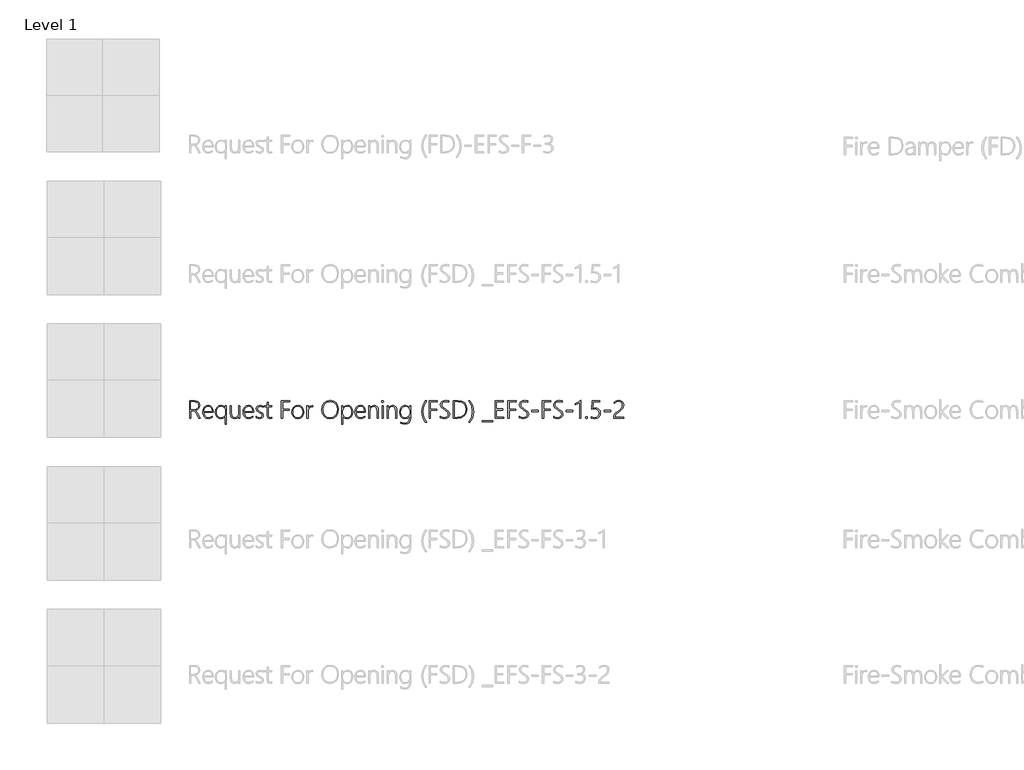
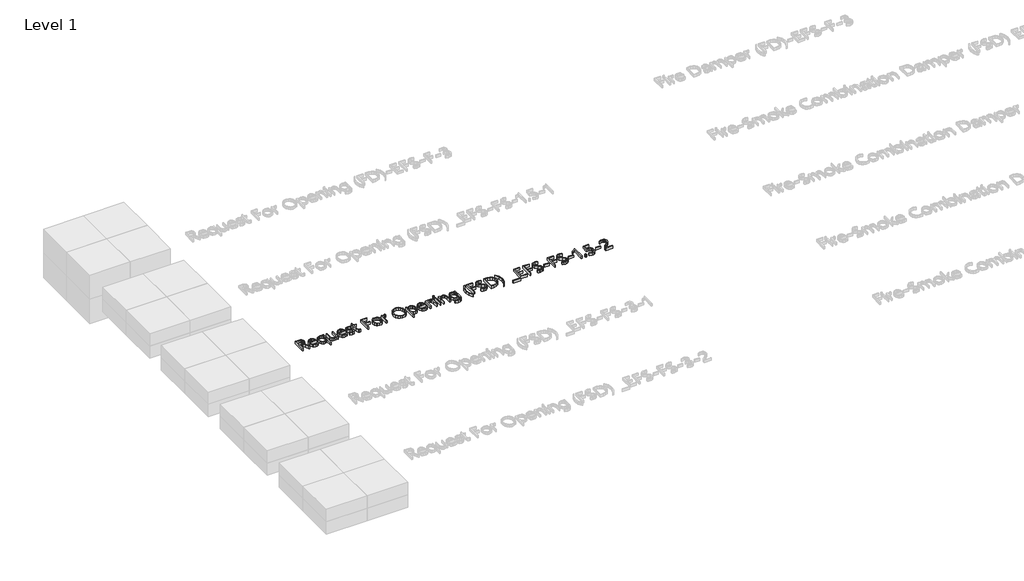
# One storey, part 4 of 13: 1 proxy.
"""IFC4 building model written with IfcOpenShell, lengths in millimetres."""

from ifc_helpers import new_model, si_unit, origin, origin_with_axes, place, context, project, spatial, polyline, outline, extrude, element, save

model = new_model("IFC4")

# Units and contexts
model_context = context("Model", 3, world=origin())
ifc_project = project(units=[si_unit("LENGTHUNIT", "METRE", prefix="MILLI")], contexts=[model_context])

# Site, building, storey
site = spatial("IfcSite", under=ifc_project)
building = spatial("IfcBuilding", under=site)
storey = spatial("IfcBuildingStorey", under=building, Name="Level 1", Elevation=0.0)

# Proxy
placement = place(None, origin())
element("IfcBuildingElementProxy", 1, Name="24\" Arial", ObjectType="24\" Arial", at=placement, inside=storey, context=model_context, shape_type="SweptSolid", body=[
    extrude(outline(polyline([(-15088.6743908, 5456.2277095), (-15102.0044774, 5485.5062925), (-15110.2316402, 5497.6908248), (-15120.5713837, 5500.8001865), (-15132.9790759, 5500.8001865), (-15132.9790759, 5456.2277095), (-15139.8821565, 5456.2277095), (-15139.8821565, 5556.2331135), (-15112.121061, 5556.2331135), (-15100.2973039, 5554.4441147), (-15091.307678, 5549.0771183), (-15085.6282578, 5540.7867269), (-15083.7351177, 5530.2275428), (-15085.2860792, 5520.2932065), (-15089.9389638, 5512.1515883), (-15097.3813475, 5506.1969375), (-15107.3008065, 5502.8235032), (-15095.7262447, 5488.0949477), (-15080.8786706, 5456.2277095), (-15088.6743908, 5456.2277095)]), holes=[polyline([(-15132.9790759, 5549.8953714), (-15132.9790759, 5507.0784192), (-15115.7511292, 5507.0784192), (-15105.4783337, 5508.5773101), (-15097.5710334, 5513.0739827), (-15092.527619, 5520.1816265), (-15090.8464808, 5529.513431), (-15092.3639684, 5538.0307017), (-15096.916431, 5544.4800237), (-15104.2955861, 5548.5415345), (-15114.293151, 5549.8953714), (-15132.9790759, 5549.8953714)])]), origin_with_axes(), (0.0, 0.0, 1.0), 20.0),
    extrude(outline(polyline([(-15059.7528637, 5491.6655066), (-15058.0531289, 5478.5437026), (-15052.9539245, 5468.6354017), (-15044.8941316, 5462.4092396), (-15034.3126315, 5460.3338522), (-15022.4405231, 5462.5505742), (-15010.8659614, 5469.2007402), (-15010.8659614, 5462.3571689), (-15022.6041738, 5456.4434307), (-15035.6218364, 5454.4721847), (-15048.1039153, 5456.9492599), (-15057.9378296, 5464.3804856), (-15064.3202036, 5476.3269806), (-15066.4476617, 5492.3498637), (-15064.223501, 5506.7436793), (-15057.551019, 5518.6827356), (-15047.3228555, 5526.7164932), (-15034.4316501, 5529.3944124), (-15022.6748411, 5527.0549524), (-15014.0050777, 5520.0365726), (-15008.6603974, 5508.978998), (-15006.8788373, 5494.5219537), (-15006.8788373, 5491.6655066), (-15059.7528637, 5491.6655066)]), holes=[polyline([(-15013.5736352, 5497.5271741), (-15015.284528, 5508.4768881), (-15019.5245667, 5516.6891736), (-15026.07803, 5521.821852), (-15034.7291967, 5523.5327448), (-15043.8973506, 5521.8478873), (-15051.347173, 5516.7933149), (-15056.676976, 5508.6070647), (-15059.4850718, 5497.5271741), (-15013.5736352, 5497.5271741)])]), origin_with_axes(), (0.0, 0.0, 1.0), 20.0),
    extrude(outline(polyline([(-14938.2348423, 5423.3785675), (-14938.2348423, 5469.3495134), (-14948.946519, 5458.1915169), (-14964.3891863, 5454.4721847), (-14976.4695772, 5456.9306632), (-14985.9315583, 5464.306099), (-14992.0461405, 5475.8546254), (-14994.0843345, 5490.8323762), (-14991.7671906, 5506.7548373), (-14984.8157587, 5518.9951596), (-14974.2863292, 5526.7945992), (-14961.2351926, 5529.3944124), (-14947.5629274, 5526.0618907), (-14938.5026342, 5516.0643258), (-14938.2348423, 5527.6388876), (-14931.8078363, 5527.6388876), (-14931.8078363, 5423.3785675), (-14938.2348423, 5423.3785675)]), holes=[polyline([(-14938.2348423, 5499.0446617), (-14939.7858038, 5508.7818734), (-14944.4386884, 5516.6296643), (-14951.8438788, 5521.8069747), (-14961.6517578, 5523.5327448), (-14971.8055347, 5521.3978481), (-14980.0698908, 5514.9931581), (-14985.5596251, 5504.7501173), (-14987.3895366, 5491.1001681), (-14985.7604691, 5478.2721914), (-14980.8732666, 5468.5312604), (-14973.3899702, 5462.3832042), (-14963.9726211, 5460.3338522), (-14952.9448011, 5462.2530276), (-14944.8552536, 5468.0105538), (-14939.8899451, 5476.5427019), (-14938.2348423, 5486.7857428), (-14938.2348423, 5499.0446617)])]), origin_with_axes(), (0.0, 0.0, 1.0), 20.0),
    extrude(outline(polyline([(-14861.7951271, 5456.2277095), (-14861.7951271, 5469.2007402), (-14871.5620934, 5458.1543235), (-14885.0930239, 5454.4721847), (-14896.1710549, 5456.4657467), (-14904.0839341, 5462.4464329), (-14908.8316616, 5472.4142432), (-14910.4142375, 5486.3691776), (-14910.4142375, 5527.6388876), (-14903.9277221, 5527.6388876), (-14903.9277221, 5487.9461744), (-14902.7338165, 5475.4380602), (-14899.1520996, 5466.8947542), (-14893.0040435, 5461.9740777), (-14884.1111202, 5460.3338522), (-14875.0917397, 5462.1637636), (-14867.9692185, 5467.653498), (-14863.3386499, 5476.2005233), (-14861.7951271, 5487.202308), (-14861.7951271, 5527.6388876), (-14855.3978757, 5527.6388876), (-14855.3978757, 5456.2277095), (-14861.7951271, 5456.2277095)])), origin_with_axes(), (0.0, 0.0, 1.0), 20.0),
    extrude(outline(polyline([(-14831.2370938, 5491.6655066), (-14829.537359, 5478.5437026), (-14824.4381545, 5468.6354017), (-14816.3783617, 5462.4092396), (-14805.7968616, 5460.3338522), (-14793.9247532, 5462.5505742), (-14782.3501914, 5469.2007402), (-14782.3501914, 5462.3571689), (-14794.0884038, 5456.4434307), (-14807.1060665, 5454.4721847), (-14819.5881453, 5456.9492599), (-14829.4220597, 5464.3804856), (-14835.8044337, 5476.3269806), (-14837.9318917, 5492.3498637), (-14835.7077311, 5506.7436793), (-14829.0352491, 5518.6827356), (-14818.8070856, 5526.7164932), (-14805.9158802, 5529.3944124), (-14794.1590711, 5527.0549524), (-14785.4893078, 5520.0365726), (-14780.1446274, 5508.978998), (-14778.3630673, 5494.5219537), (-14778.3630673, 5491.6655066), (-14831.2370938, 5491.6655066)]), holes=[polyline([(-14785.0578653, 5497.5271741), (-14786.7687581, 5508.4768881), (-14791.0087968, 5516.6891736), (-14797.5622601, 5521.821852), (-14806.2134268, 5523.5327448), (-14815.3815806, 5521.8478873), (-14822.831403, 5516.7933149), (-14828.161206, 5508.6070647), (-14830.9693018, 5497.5271741), (-14785.0578653, 5497.5271741)])]), origin_with_axes(), (0.0, 0.0, 1.0), 20.0),
    extrude(outline(polyline([(-14764.1105863, 5459.3519485), (-14764.1105863, 5467.1179141), (-14755.318085, 5462.1488863), (-14746.4065651, 5460.3338522), (-14733.798029, 5463.7705151), (-14729.5951836, 5474.080504), (-14733.2847611, 5482.1588935), (-14745.2758881, 5489.0768514), (-14759.6771424, 5498.3156726), (-14763.8130398, 5509.9348663), (-14762.1504983, 5517.8161312), (-14757.1628738, 5524.0236967), (-14740.7531802, 5529.3944124), (-14724.9832117, 5525.6155709), (-14724.9832117, 5518.3554344), (-14741.4375373, 5523.5327448), (-14752.8038165, 5519.872922), (-14757.1182418, 5510.3514315), (-14754.410568, 5502.0796367), (-14742.419441, 5494.7897456), (-14727.080915, 5485.4765378), (-14722.9003856, 5474.080504), (-14724.4959792, 5466.310819), (-14729.2827597, 5460.0214283), (-14736.8739167, 5455.8594956), (-14746.8826396, 5454.4721847), (-14764.1105863, 5459.3519485)])), origin_with_axes(), (0.0, 0.0, 1.0), 20.0),
    extrude(outline(polyline([(-14676.9294397, 5457.2096132), (-14686.3616662, 5454.8292406), (-14698.2337745, 5459.5751084), (-14702.191144, 5473.8127121), (-14702.191144, 5521.77722), (-14715.0154014, 5521.77722), (-14715.0154014, 5527.6388876), (-14702.191144, 5527.6388876), (-14702.191144, 5546.1760392), (-14698.977641, 5547.3067162), (-14695.764138, 5548.3481292), (-14695.764138, 5527.6388876), (-14676.9294397, 5527.6388876), (-14676.9294397, 5521.77722), (-14695.764138, 5521.77722), (-14695.764138, 5474.6458425), (-14693.4283973, 5463.9341658), (-14685.5285358, 5460.6313988), (-14676.9294397, 5463.1902993), (-14676.9294397, 5457.2096132)])), origin_with_axes(), (0.0, 0.0, 1.0), 20.0),
    extrude(outline(polyline([(-14615.0099974, 5549.8953714), (-14615.0099974, 5509.1017359), (-14578.0547127, 5509.1017359), (-14578.0547127, 5502.8235032), (-14615.0099974, 5502.8235032), (-14615.0099974, 5456.2277095), (-14621.9130779, 5456.2277095), (-14621.9130779, 5556.2331135), (-14575.1685109, 5556.2331135), (-14575.1685109, 5549.8953714), (-14615.0099974, 5549.8953714)])), origin_with_axes(), (0.0, 0.0, 1.0), 20.0),
    extrude(outline(polyline([(-14527.9776241, 5454.4721847), (-14541.9697518, 5457.0459625), (-14552.7037445, 5464.7672962), (-14559.5324384, 5476.6022112), (-14561.8086697, 5491.5167333), (-14559.4282971, 5507.3722464), (-14552.2871793, 5519.3522154), (-14541.2630787, 5526.8838631), (-14527.2337576, 5529.3944124), (-14513.5503345, 5526.8987405), (-14503.087853, 5519.4117248), (-14496.4488451, 5507.5135811), (-14494.2358424, 5491.7845252), (-14496.4934771, 5476.7063525), (-14503.266381, 5464.7970508), (-14513.959461, 5457.0534012), (-14527.9776241, 5454.4721847)]), holes=[polyline([(-14527.5015495, 5523.5327448), (-14538.8380741, 5521.4052868), (-14547.615698, 5515.0229128), (-14553.2393283, 5504.8542586), (-14555.1138717, 5491.36796), (-14553.2839603, 5478.7296692), (-14547.794226, 5468.8436843), (-14539.128182, 5462.4613102), (-14527.7693415, 5460.3338522), (-14516.3621496, 5462.4278362), (-14507.9081076, 5468.7097883), (-14502.6750072, 5478.7036339), (-14500.9306404, 5491.9332985), (-14502.6638492, 5505.4233164), (-14507.8634756, 5515.3650913), (-14516.2394117, 5521.4908315), (-14527.5015495, 5523.5327448)])]), origin_with_axes(), (0.0, 0.0, 1.0), 20.0),
    extrude(outline(polyline([(-14442.9983221, 5520.9440896), (-14450.5262505, 5523.2351983), (-14458.2736194, 5521.0556696), (-14464.6745901, 5514.5170836), (-14468.9704188, 5503.9690575), (-14470.4023617, 5489.7612085), (-14470.4023617, 5456.2277095), (-14476.6805945, 5456.2277095), (-14476.6805945, 5527.6388876), (-14470.4023617, 5527.6388876), (-14470.4023617, 5511.8094098), (-14462.3686042, 5524.4997712), (-14450.1096853, 5529.0373565), (-14442.9983221, 5527.7876609), (-14442.9983221, 5520.9440896)])), origin_with_axes(), (0.0, 0.0, 1.0), 20.0),
    extrude(outline(polyline([(-14346.5337224, 5454.4721847), (-14365.5729839, 5457.9943923), (-14380.320136, 5468.561015), (-14389.7709591, 5484.7587067), (-14392.9212335, 5505.1741211), (-14389.6854145, 5526.7164932), (-14379.9779574, 5543.49812), (-14364.6766248, 5554.2990607), (-14344.6591789, 5557.8993743), (-14326.3563452, 5554.4403954), (-14311.9141783, 5544.0634585), (-14302.5303032, 5528.0703301), (-14299.4023448, 5507.7627763), (-14302.6084092, 5485.5918371), (-14312.2266022, 5468.7097883), (-14327.2155109, 5458.0315856), (-14346.5337224, 5454.4721847)]), holes=[polyline([(-14345.8196106, 5551.6211416), (-14361.712317, 5548.4671479), (-14374.5179778, 5539.0051668), (-14382.9645812, 5524.4328232), (-14385.7801157, 5505.9477422), (-14383.1133545, 5487.4031519), (-14375.1130709, 5473.0688456), (-14362.6719047, 5463.8969724), (-14346.6824956, 5460.8396814), (-14330.0570807, 5463.8634985), (-14317.3146486, 5472.9349497), (-14309.2139431, 5487.4143099), (-14306.513708, 5506.661854), (-14309.1544338, 5525.5225876), (-14317.0766114, 5539.7341559), (-14329.5438129, 5548.6493951), (-14345.8196106, 5551.6211416)])]), origin_with_axes(), (0.0, 0.0, 1.0), 20.0),
    extrude(outline(polyline([(-14273.843094, 5468.9329482), (-14274.1108859, 5423.3785675), (-14280.5378919, 5423.3785675), (-14280.5378919, 5527.6388876), (-14274.1108859, 5527.6388876), (-14274.1108859, 5512.9103321), (-14262.848748, 5525.0948643), (-14247.1234115, 5529.3944124), (-14235.0169852, 5527.0475138), (-14225.8934633, 5520.0068179), (-14220.1694111, 5508.9418046), (-14218.2613937, 5494.5219537), (-14220.448361, 5478.301946), (-14227.009263, 5465.5260399), (-14237.1630399, 5457.2356485), (-14250.1286319, 5454.4721847), (-14264.0761276, 5458.0873756), (-14273.843094, 5468.9329482)]), holes=[polyline([(-14274.1108859, 5495.5038574), (-14274.1108859, 5486.4881962), (-14272.4185897, 5476.5055086), (-14267.3417013, 5468.0403085), (-14259.512507, 5462.2604663), (-14249.5632934, 5460.3338522), (-14239.6438345, 5462.6807508), (-14231.7848855, 5469.7214467), (-14226.6633651, 5480.5781773), (-14224.9561916, 5494.3731804), (-14226.5257498, 5506.3866234), (-14231.2344244, 5515.6477606), (-14238.5540701, 5521.5614988), (-14247.9565419, 5523.5327448), (-14259.0364325, 5521.4387608), (-14267.282192, 5515.1568087), (-14272.4037124, 5506.0556029), (-14274.1108859, 5495.5038574)])]), origin_with_axes(), (0.0, 0.0, 1.0), 20.0),
    extrude(outline(polyline([(-14199.0101303, 5491.6655066), (-14197.3103954, 5478.5437026), (-14192.211191, 5468.6354017), (-14184.1513981, 5462.4092396), (-14173.5698981, 5460.3338522), (-14161.6977897, 5462.5505742), (-14150.1232279, 5469.2007402), (-14150.1232279, 5462.3571689), (-14161.8614403, 5456.4434307), (-14174.879103, 5454.4721847), (-14187.3611818, 5456.9492599), (-14197.1950961, 5464.3804856), (-14203.5774702, 5476.3269806), (-14205.7049282, 5492.3498637), (-14203.4807675, 5506.7436793), (-14196.8082856, 5518.6827356), (-14186.5801221, 5526.7164932), (-14173.6889167, 5529.3944124), (-14161.9321076, 5527.0549524), (-14153.2623443, 5520.0365726), (-14147.9176639, 5508.978998), (-14146.1361038, 5494.5219537), (-14146.1361038, 5491.6655066), (-14199.0101303, 5491.6655066)]), holes=[polyline([(-14152.8309017, 5497.5271741), (-14154.5417946, 5508.4768881), (-14158.7818333, 5516.6891736), (-14165.3352966, 5521.821852), (-14173.9864633, 5523.5327448), (-14183.1546171, 5521.8478873), (-14190.6044395, 5516.7933149), (-14195.9342425, 5508.6070647), (-14198.7423383, 5497.5271741), (-14152.8309017, 5497.5271741)])]), origin_with_axes(), (0.0, 0.0, 1.0), 20.0),
    extrude(outline(polyline([(-14079.6344442, 5456.2277095), (-14079.6344442, 5497.7949661), (-14084.2761708, 5517.0983001), (-14090.078329, 5521.9241337), (-14098.2013505, 5523.5327448), (-14107.6001029, 5521.6396047), (-14115.146628, 5515.9601845), (-14120.1119364, 5507.4912651), (-14121.7670393, 5497.2296276), (-14121.7670393, 5456.2277095), (-14128.1940453, 5456.2277095), (-14128.1940453, 5527.6388876), (-14121.7670393, 5527.6388876), (-14121.7670393, 5514.6658569), (-14111.4793664, 5525.7122735), (-14097.0706735, 5529.3944124), (-14086.8573873, 5527.4677983), (-14079.3666523, 5521.6879561), (-14074.7695577, 5512.3301163), (-14073.2371928, 5499.6695095), (-14073.2371928, 5456.2277095), (-14079.6344442, 5456.2277095)])), origin_with_axes(), (0.0, 0.0, 1.0), 20.0),
    extrude(outline(polyline([(-14048.8681283, 5545.6404554), (-14052.5577058, 5547.1728202), (-14054.1644573, 5551.0855577), (-14052.5279512, 5554.8048899), (-14048.8681283, 5556.2331135), (-14045.0595321, 5554.8346446), (-14043.4230259, 5551.0855577), (-14045.0297775, 5547.2472069), (-14048.8681283, 5545.6404554)])), origin_with_axes(), (0.0, 0.0, 1.0), 20.0),
    extrude(outline(polyline([(-14052.022122, 5456.2277095), (-14052.022122, 5527.6388876), (-14045.595116, 5527.6388876), (-14045.595116, 5456.2277095), (-14052.022122, 5456.2277095)])), origin_with_axes(), (0.0, 0.0, 1.0), 20.0),
    extrude(outline(polyline([(-13974.8980496, 5456.2277095), (-13974.8980496, 5497.7949661), (-13979.5397762, 5517.0983001), (-13985.3419344, 5521.9241337), (-13993.4649559, 5523.5327448), (-14002.8637084, 5521.6396047), (-14010.4102334, 5515.9601845), (-14015.3755419, 5507.4912651), (-14017.0306447, 5497.2296276), (-14017.0306447, 5456.2277095), (-14023.4576507, 5456.2277095), (-14023.4576507, 5527.6388876), (-14017.0306447, 5527.6388876), (-14017.0306447, 5514.6658569), (-14006.7429719, 5525.7122735), (-13992.3342789, 5529.3944124), (-13982.1209927, 5527.4677983), (-13974.6302577, 5521.6879561), (-13970.0331631, 5512.3301163), (-13968.5007983, 5499.6695095), (-13968.5007983, 5456.2277095), (-13974.8980496, 5456.2277095)])), origin_with_axes(), (0.0, 0.0, 1.0), 20.0),
    extrude(outline(polyline([(-13890.1567849, 5461.5240385), (-13892.3549103, 5444.0803705), (-13898.9492862, 5432.0371729), (-13910.1779501, 5425.029951), (-13926.2789392, 5422.6942104), (-13947.5535193, 5428.1095581), (-13947.5535193, 5434.804356), (-13926.1301659, 5428.5558779), (-13913.2036269, 5430.5085273), (-13903.9703847, 5436.3664756), (-13898.4304394, 5446.1297226), (-13896.583791, 5459.7982684), (-13896.583791, 5469.0519669), (-13907.5111889, 5458.1171302), (-13922.5893617, 5454.4721847), (-13934.5581727, 5456.8637153), (-13944.1019791, 5464.0383071), (-13950.3504571, 5475.4826922), (-13952.4332832, 5490.6836029), (-13950.1830872, 5506.1969375), (-13943.4324993, 5518.5785943), (-13933.0072111, 5526.6904579), (-13919.7329145, 5529.3944124), (-13906.1275974, 5526.1288387), (-13896.8515829, 5516.3321177), (-13896.583791, 5527.6388876), (-13890.1567849, 5527.6388876), (-13890.1567849, 5461.5240385)]), holes=[polyline([(-13896.583791, 5500.234848), (-13898.1793845, 5509.0794199), (-13902.966165, 5516.6296643), (-13910.3118461, 5521.8069747), (-13919.5841412, 5523.5327448), (-13930.217712, 5521.3160228), (-13938.5527354, 5514.6658569), (-13943.9420478, 5504.378184), (-13945.7384852, 5491.2489414), (-13944.0908211, 5478.2164014), (-13939.1478286, 5468.4568737), (-13931.5046009, 5462.3646076), (-13921.7562312, 5460.3338522), (-13911.4127684, 5462.200957), (-13903.4124849, 5467.8022712), (-13898.2909644, 5476.1038207), (-13896.583791, 5486.071631), (-13896.583791, 5500.234848)])]), origin_with_axes(), (0.0, 0.0, 1.0), 20.0),
    extrude(outline(polyline([(-13807.1412904, 5433.4951511), (-13822.9856455, 5461.025648), (-13828.2670972, 5494.2244071), (-13822.9186975, 5528.561282), (-13806.8734985, 5556.2331135), (-13800.0299272, 5556.2331135), (-13816.4098662, 5528.2116647), (-13821.8698459, 5494.3731804), (-13816.4842529, 5461.8215851), (-13800.3274738, 5433.4951511), (-13807.1412904, 5433.4951511)])), origin_with_axes(), (0.0, 0.0, 1.0), 20.0),
    extrude(outline(polyline([(-13779.023139, 5549.8953714), (-13779.023139, 5509.1017359), (-13742.0678543, 5509.1017359), (-13742.0678543, 5502.8235032), (-13779.023139, 5502.8235032), (-13779.023139, 5456.2277095), (-13785.9262196, 5456.2277095), (-13785.9262196, 5556.2331135), (-13739.1816526, 5556.2331135), (-13739.1816526, 5549.8953714), (-13779.023139, 5549.8953714)])), origin_with_axes(), (0.0, 0.0, 1.0), 20.0),
    extrude(outline(polyline([(-13722.4000257, 5459.7982684), (-13722.4000257, 5467.653498), (-13711.5916463, 5462.5431355), (-13700.649371, 5460.8396814), (-13682.8560858, 5465.6748132), (-13678.3036232, 5471.4806908), (-13676.7861357, 5479.2280597), (-13680.8774011, 5491.4721013), (-13698.566545, 5503.9244255), (-13717.8029311, 5518.7571223), (-13721.8346872, 5532.5186514), (-13719.7778965, 5542.3116531), (-13713.6075244, 5550.5053419), (-13704.007928, 5556.0508662), (-13691.6634645, 5557.8993743), (-13673.8106699, 5554.8941539), (-13673.8106699, 5547.6637721), (-13692.5561042, 5551.6211416), (-13708.6980059, 5546.4587085), (-13713.1723625, 5540.6007603), (-13714.6638147, 5533.3517818), (-13710.5874267, 5521.1523722), (-13692.9726694, 5508.8041893), (-13674.3164991, 5494.6856043), (-13669.6747725, 5480.50751), (-13671.6720539, 5470.0561866), (-13677.6638981, 5461.7323211), (-13687.3006878, 5456.2872188), (-13700.2328058, 5454.4721847), (-13712.1197915, 5456.0789362), (-13722.4000257, 5459.7982684)])), origin_with_axes(), (0.0, 0.0, 1.0), 20.0),
    extrude(outline(polyline([(-13648.8167576, 5456.2277095), (-13648.8167576, 5556.2331135), (-13623.7633359, 5556.2331135), (-13601.863908, 5553.1311904), (-13585.9154115, 5543.8254213), (-13576.1856385, 5528.5687206), (-13572.9423809, 5507.614003), (-13576.4199565, 5486.9084807), (-13586.8526833, 5470.4950678), (-13603.4074308, 5459.794549), (-13625.2510688, 5456.2277095), (-13648.8167576, 5456.2277095)]), holes=[polyline([(-13641.913677, 5549.8953714), (-13641.913677, 5462.5059422), (-13626.2032179, 5462.5059422), (-13606.5502665, 5465.392144), (-13592.044871, 5474.0507493), (-13583.0961577, 5488.1470183), (-13580.1132533, 5507.3462111), (-13582.9064718, 5525.9614688), (-13591.2861272, 5539.2580813), (-13605.2522196, 5547.2360489), (-13624.804749, 5549.8953714), (-13641.913677, 5549.8953714)])]), origin_with_axes(), (0.0, 0.0, 1.0), 20.0),
    extrude(outline(polyline([(-13555.8036981, 5433.4951511), (-13562.6472693, 5433.4951511), (-13546.4681743, 5461.8215851), (-13541.0751426, 5494.3731804), (-13546.5351223, 5528.2116647), (-13562.9150613, 5556.2331135), (-13556.07149, 5556.2331135), (-13540.0262909, 5528.4868953), (-13534.6778912, 5494.2244071), (-13539.959343, 5460.9512613), (-13555.8036981, 5433.4951511)])), origin_with_axes(), (0.0, 0.0, 1.0), 20.0),
    extrude(outline(polyline([(-13484.5412933, 5437.5417845), (-13484.5412933, 5443.8200173), (-13425.2700155, 5443.8200173), (-13425.2700155, 5437.5417845), (-13484.5412933, 5437.5417845)])), origin_with_axes(), (0.0, 0.0, 1.0), 20.0),
    extrude(outline(polyline([(-13412.6837953, 5456.2277095), (-13412.6837953, 5556.2331135), (-13365.9392283, 5556.2331135), (-13365.9392283, 5549.8953714), (-13405.7807148, 5549.8953714), (-13405.7807148, 5509.786093), (-13368.8254301, 5509.786093), (-13368.8254301, 5503.5078603), (-13405.7807148, 5503.5078603), (-13405.7807148, 5462.5059422), (-13363.6481197, 5462.5059422), (-13363.6481197, 5456.2277095), (-13412.6837953, 5456.2277095)])), origin_with_axes(), (0.0, 0.0, 1.0), 20.0),
    extrude(outline(polyline([(-13333.4173876, 5549.8953714), (-13333.4173876, 5509.1017359), (-13296.4621029, 5509.1017359), (-13296.4621029, 5502.8235032), (-13333.4173876, 5502.8235032), (-13333.4173876, 5456.2277095), (-13340.3204682, 5456.2277095), (-13340.3204682, 5556.2331135), (-13293.5759012, 5556.2331135), (-13293.5759012, 5549.8953714), (-13333.4173876, 5549.8953714)])), origin_with_axes(), (0.0, 0.0, 1.0), 20.0),
    extrude(outline(polyline([(-13276.7942743, 5459.7982684), (-13276.7942743, 5467.653498), (-13265.985895, 5462.5431355), (-13255.0436196, 5460.8396814), (-13237.2503344, 5465.6748132), (-13232.6978718, 5471.4806908), (-13231.1803843, 5479.2280597), (-13235.2716497, 5491.4721013), (-13252.9607936, 5503.9244255), (-13272.1971797, 5518.7571223), (-13276.2289358, 5532.5186514), (-13274.1721451, 5542.3116531), (-13268.001773, 5550.5053419), (-13258.4021766, 5556.0508662), (-13246.0577131, 5557.8993743), (-13228.2049185, 5554.8941539), (-13228.2049185, 5547.6637721), (-13246.9503528, 5551.6211416), (-13263.0922545, 5546.4587085), (-13267.5666111, 5540.6007603), (-13269.0580633, 5533.3517818), (-13264.9816753, 5521.1523722), (-13247.366918, 5508.8041893), (-13228.7107477, 5494.6856043), (-13224.0690211, 5480.50751), (-13226.0663025, 5470.0561866), (-13232.0581467, 5461.7323211), (-13241.6949364, 5456.2872188), (-13254.6270544, 5454.4721847), (-13266.5140401, 5456.0789362), (-13276.7942743, 5459.7982684)])), origin_with_axes(), (0.0, 0.0, 1.0), 20.0),
    extrude(outline(polyline([(-13205.91868, 5494.9385189), (-13205.91868, 5501.2167517), (-13167.7732091, 5501.2167517), (-13167.7732091, 5494.9385189), (-13205.91868, 5494.9385189)])), origin_with_axes(), (0.0, 0.0, 1.0), 20.0),
    extrude(outline(polyline([(-13139.1789832, 5549.8953714), (-13139.1789832, 5509.1017359), (-13102.2236985, 5509.1017359), (-13102.2236985, 5502.8235032), (-13139.1789832, 5502.8235032), (-13139.1789832, 5456.2277095), (-13146.0820637, 5456.2277095), (-13146.0820637, 5556.2331135), (-13099.3374967, 5556.2331135), (-13099.3374967, 5549.8953714), (-13139.1789832, 5549.8953714)])), origin_with_axes(), (0.0, 0.0, 1.0), 20.0),
    extrude(outline(polyline([(-13082.5558699, 5459.7982684), (-13082.5558699, 5467.653498), (-13071.7474905, 5462.5431355), (-13060.8052152, 5460.8396814), (-13043.01193, 5465.6748132), (-13038.4594674, 5471.4806908), (-13036.9419798, 5479.2280597), (-13041.0332453, 5491.4721013), (-13058.7223892, 5503.9244255), (-13077.9587753, 5518.7571223), (-13081.9905314, 5532.5186514), (-13079.9337407, 5542.3116531), (-13073.7633685, 5550.5053419), (-13064.1637722, 5556.0508662), (-13051.8193086, 5557.8993743), (-13033.9665141, 5554.8941539), (-13033.9665141, 5547.6637721), (-13052.7119483, 5551.6211416), (-13068.8538501, 5546.4587085), (-13073.3282067, 5540.6007603), (-13074.8196589, 5533.3517818), (-13070.7432708, 5521.1523722), (-13053.1285135, 5508.8041893), (-13034.4723433, 5494.6856043), (-13029.8306167, 5480.50751), (-13031.8278981, 5470.0561866), (-13037.8197422, 5461.7323211), (-13047.4565319, 5456.2872188), (-13060.38865, 5454.4721847), (-13072.2756357, 5456.0789362), (-13082.5558699, 5459.7982684)])), origin_with_axes(), (0.0, 0.0, 1.0), 20.0),
    extrude(outline(polyline([(-13011.6802756, 5494.9385189), (-13011.6802756, 5501.2167517), (-12973.5348046, 5501.2167517), (-12973.5348046, 5494.9385189), (-13011.6802756, 5494.9385189)])), origin_with_axes(), (0.0, 0.0, 1.0), 20.0),
    extrude(outline(polyline([(-12927.9804239, 5558.4647128), (-12927.9804239, 5456.2277095), (-12934.4074299, 5456.2277095), (-12934.4074299, 5548.3481292), (-12945.3868986, 5540.3887583), (-12958.8657584, 5534.4824588), (-12958.8657584, 5540.3441263), (-12950.7278596, 5543.6468933), (-12943.5123551, 5547.7232814), (-12936.8175572, 5552.6327999), (-12930.2120232, 5558.4647128), (-12927.9804239, 5558.4647128)])), origin_with_axes(), (0.0, 0.0, 1.0), 20.0),
    extrude(outline(polyline([(-12897.4223906, 5454.9780138), (-12901.3946374, 5456.61452), (-12902.9865116, 5460.6313988), (-12901.3946374, 5464.6334002), (-12897.4223906, 5466.1955197), (-12893.3757572, 5464.6334002), (-12891.7094964, 5460.6313988), (-12893.3757572, 5456.61452), (-12897.4223906, 5454.9780138)])), origin_with_axes(), (0.0, 0.0, 1.0), 20.0),
    extrude(outline(polyline([(-12869.7208044, 5458.2510262), (-12869.7208044, 5465.6301812), (-12850.6183143, 5460.3338522), (-12839.676039, 5462.0261484), (-12831.4265602, 5467.1030368), (-12826.2492498, 5474.9843017), (-12824.5234796, 5485.0897273), (-12826.2622674, 5495.7772283), (-12831.4786308, 5503.4111577), (-12840.1725698, 5507.9915153), (-12852.3440844, 5509.5183011), (-12866.715584, 5508.6851707), (-12863.7103636, 5556.2331135), (-12822.0835977, 5556.2331135), (-12822.0835977, 5550.3714459), (-12857.9974694, 5550.3714459), (-12860.3183327, 5514.8146302), (-12849.9934665, 5515.3799687), (-12836.0794447, 5513.4347579), (-12825.9963352, 5507.5991257), (-12819.8705951, 5498.2896372), (-12817.8286817, 5485.9228577), (-12819.9896137, 5473.2324962), (-12826.4724097, 5463.1902993), (-12836.9720845, 5456.6517133), (-12851.1836528, 5454.4721847), (-12869.7208044, 5458.2510262)])), origin_with_axes(), (0.0, 0.0, 1.0), 20.0),
    extrude(outline(polyline([(-12796.4945922, 5494.9385189), (-12796.4945922, 5501.2167517), (-12758.3491212, 5501.2167517), (-12758.3491212, 5494.9385189), (-12796.4945922, 5494.9385189)])), origin_with_axes(), (0.0, 0.0, 1.0), 20.0),
    extrude(outline(polyline([(-12742.7874353, 5456.2277095), (-12742.7874353, 5460.8991907), (-12742.0138143, 5469.3048815), (-12739.6780736, 5476.1782073), (-12735.7802135, 5482.0696295), (-12730.3351112, 5487.5742412), (-12723.2832573, 5493.2276261), (-12714.669284, 5499.5207362), (-12706.2040839, 5506.0221289), (-12699.330758, 5512.9252094), (-12694.7039088, 5521.0482309), (-12693.0078933, 5531.2094465), (-12694.3766075, 5539.9870705), (-12698.4827503, 5546.5628498), (-12705.0585296, 5550.6689925), (-12713.8361536, 5552.0377068), (-12726.7496749, 5549.106873), (-12738.8895752, 5540.9689741), (-12738.8895752, 5548.4969025), (-12726.5413923, 5555.3851057), (-12712.7352312, 5557.8993743), (-12701.8450266, 5556.0843402), (-12693.5137225, 5550.9219071), (-12688.1876388, 5542.8435176), (-12686.3130953, 5532.2508595), (-12688.2917801, 5520.0068179), (-12693.6922504, 5510.3067995), (-12701.681376, 5502.2879193), (-12711.3367623, 5494.9980282), (-12722.7625508, 5486.4584415), (-12730.3648658, 5479.1834278), (-12734.5900272, 5471.8489047), (-12735.8843548, 5463.13079), (-12686.164322, 5462.089377), (-12686.164322, 5456.2277095), (-12742.7874353, 5456.2277095)])), origin_with_axes(), (0.0, 0.0, 1.0), 20.0),
])

save(model, "model.ifc")
